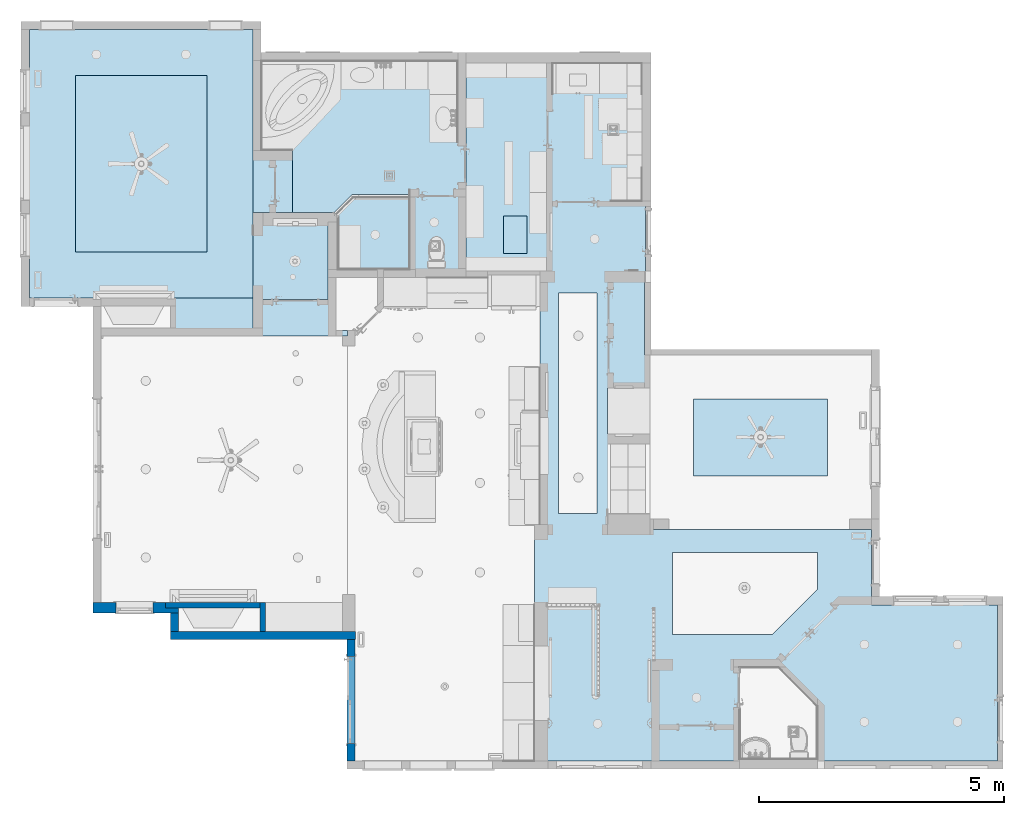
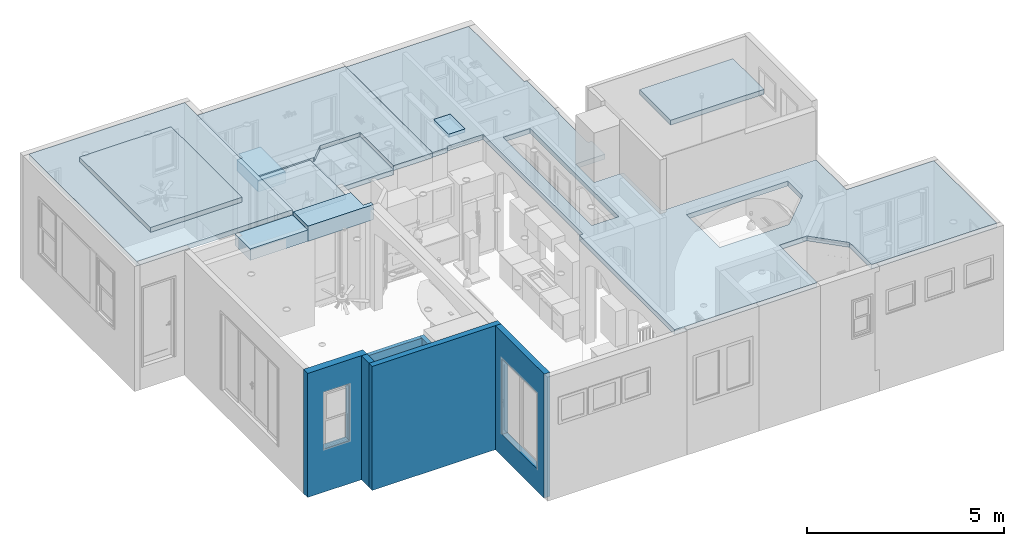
# One storey, part 5 of 77: 11 slabs, 6 walls.
"""IFC2X3 building model written with IfcOpenShell, lengths in inches."""

from ifc_helpers import new_model, entity, si_unit, converted_unit, derived_unit, money_unit, direction, frame, origin_with_axes, place, context, subcontext, project, spatial, faceted_brep, material, type_object, element, save


model = new_model("IFC2X3")

# Units and contexts
model_context = context("Model", 3, precision=0.000393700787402, world=origin_with_axes(), true_north=direction((0.0, 1.0)))
body_context = subcontext(model_context, "Body", "Model", "MODEL_VIEW")
ifc_project = project(units=[converted_unit("LENGTHUNIT", "INCH", entity("IfcPositiveLengthMeasure", 0.0254), si_unit("LENGTHUNIT", "METRE"), dimensions=[1, 0, 0, 0, 0, 0, 0]), converted_unit("AREAUNIT", "SQUARE_FOOT", entity("IfcPositiveLengthMeasure", 0.09290304), si_unit("AREAUNIT", "SQUARE_METRE"), dimensions=[2, 0, 0, 0, 0, 0, 0]), si_unit("PLANEANGLEUNIT", "RADIAN"), si_unit("SOLIDANGLEUNIT", "STERADIAN"), money_unit("USD"), converted_unit("TIMEUNIT", "Year", entity("IfcTimeMeasure", 31556926.0), si_unit("TIMEUNIT", "SECOND"), dimensions=[0, 0, 1, 0, 0, 0, 0]), si_unit("MASSUNIT", "GRAM", prefix="KILO"), si_unit("THERMODYNAMICTEMPERATUREUNIT", "DEGREE_CELSIUS"), si_unit("LUMINOUSINTENSITYUNIT", "LUMEN"), si_unit("ENERGYUNIT", "JOULE", prefix="MEGA"), derived_unit("THERMALCONDUCTANCEUNIT", [(si_unit("POWERUNIT", "WATT"), 1), (si_unit("LENGTHUNIT", "METRE"), -1), (si_unit("THERMODYNAMICTEMPERATUREUNIT", "KELVIN"), -1)]), derived_unit("SPECIFICHEATCAPACITYUNIT", [(si_unit("ENERGYUNIT", "JOULE"), 1), (si_unit("MASSUNIT", "GRAM", prefix="KILO"), -1), (si_unit("THERMODYNAMICTEMPERATUREUNIT", "KELVIN"), -1)]), derived_unit("MASSDENSITYUNIT", [(si_unit("MASSUNIT", "GRAM", prefix="KILO"), 1), (si_unit("VOLUMEUNIT", "CUBIC_METRE"), -1)])], contexts=[model_context])

# Site, building, storey
site_placement = place(None, origin_with_axes())
site = spatial("IfcSite", under=ifc_project, at=site_placement, Name="Site", CompositionType="ELEMENT")
building_placement = place(site_placement, origin_with_axes())
building = spatial("IfcBuilding", under=site, at=building_placement, Name="Building", CompositionType="ELEMENT")
storey_placement = place(building_placement, frame((0.0, 0.0, 127.952755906), z_axis=(0.0, 0.0, 1.0), x_axis=(1.0, 0.0, 0.0)))
storey = spatial("IfcBuildingStorey", under=building, at=storey_placement, Name="Second Floor", CompositionType="ELEMENT", Elevation=127.953)

# Slabs
ifc_material = material(Name="Generic - Structural")
slab_type_1 = type_object("IfcSlabType", Name="Generic - Structural 150", PredefinedType="FLOOR")
slab_1_placement = place(storey_placement, frame((263.739635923, 607.989865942, 120.094488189), z_axis=(0.0, 0.0, 1.0), x_axis=(1.0, 0.0, 0.0)))
element("IfcSlab", 1, at=slab_1_placement, inside=storey, type_object=slab_type_1, material=ifc_material, Name="SLA - 002", PredefinedType="FLOOR", context=body_context, shape_type="Brep", body=[
    faceted_brep([(-37.1016937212, 0.0, 5.90551181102), (-37.1016937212, 0.0, 0.0), (-37.1016937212, -216.149622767, 0.0), (-37.1016937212, -216.149622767, 5.90551181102), (143.000007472, 0.0, 5.90551181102), (143.000007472, 0.0, 0.0), (143.000007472, -216.082692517, 0.0), (-37.0878797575, -216.149622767, 0.0), (105.960635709, -37.0039518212, 0.0), (0.0393758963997, -37.0039518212, 0.0), (0.0393758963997, -179.161435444, 0.0), (105.960635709, -179.161435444, 0.0), (-37.0878797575, -216.149622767, 5.90551181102), (143.000007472, -216.082692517, 5.90551181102), (0.0393758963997, -179.161435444, 5.90551181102), (0.0393758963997, -37.0039518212, 5.90551181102), (105.960635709, -37.0039518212, 5.90551181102), (105.960635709, -179.161435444, 5.90551181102)], [[[0, 1, 2, 3]], [[4, 5, 1, 0]], [[1, 5, 6, 7, 2], [8, 9, 10, 11]], [[3, 2, 7, 12]], [[4, 0, 3, 12, 13], [14, 15, 16, 17]], [[13, 6, 5, 4]], [[12, 7, 6, 13]], [[15, 9, 8, 16]], [[14, 10, 9, 15]], [[17, 11, 10, 14]], [[16, 8, 11, 17]]]),
])
slab_2_placement = place(storey_placement, frame((406.739645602, 502.905939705, 119.68503937), z_axis=(0.0, 0.0, 1.0), x_axis=(1.0, 0.0, 0.0)))
element("IfcSlab", 2, at=slab_2_placement, inside=storey, type_object=slab_type_1, material=ifc_material, Name="SLA - 004", PredefinedType="FLOOR", context=body_context, shape_type="Brep", body=[
    faceted_brep([(-2.20669145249e-06, -42.0751163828, 5.90551181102), (-2.20669145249e-06, -42.0751163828, 0.0), (63.9999975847, -42.0751163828, 0.0), (63.9999975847, -42.0751163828, 5.90551181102), (2.60025995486e-06, 80.001232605, 5.90551181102), (2.60025995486e-06, 80.001232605, 0.0), (171.250003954, 80.001232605, 0.0), (171.250001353, -94.499091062, 0.0), (126.250001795, -94.499091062, 0.0), (126.250001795, -27.4687506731, 0.0), (79.750021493, -27.4687506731, 0.0), (64.6278042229, -42.59073652, 0.0), (64.6278042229, -42.59073652, 5.90551181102), (79.750021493, -27.4687506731, 5.90551181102), (126.250001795, -27.4687506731, 5.90551181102), (126.250001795, -94.499091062, 5.90551181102), (171.250001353, -94.499091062, 5.90551181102), (171.250003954, 80.001232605, 5.90551181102)], [[[0, 1, 2, 3]], [[4, 5, 1, 0]], [[1, 5, 6, 7, 8, 9, 10, 11, 2]], [[3, 2, 11, 12]], [[4, 0, 3, 12, 13, 14, 15, 16, 17]], [[17, 6, 5, 4]], [[16, 7, 6, 17]], [[15, 8, 7, 16]], [[14, 9, 8, 15]], [[13, 10, 9, 14]], [[12, 11, 10, 13]]]),
])
slab_3_placement = place(storey_placement, frame((466.989645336, 408.408081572, 114.75), z_axis=(0.0, 0.0, 1.0), x_axis=(1.0, 0.0, 0.0)))
element("IfcSlab", 3, at=slab_3_placement, inside=storey, type_object=slab_type_1, material=ifc_material, Name="SLA - 005", PredefinedType="FLOOR", context=body_context, shape_type="Brep", body=[
    faceted_brep([(0.0, 0.0, 5.90551181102), (0.0, 0.0, 0.0), (65.9999974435, -2.23436317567e-09, 0.0), (65.9999974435, -2.23436317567e-09, 5.90551181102), (-9.09998235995e-10, 52.4227417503, 5.90551181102), (-9.09998235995e-10, 52.4227417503, 0.0), (3.74999785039, 52.4227417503, 0.0), (4.37779945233, 51.90835308, 0.0), (19.4999968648, 67.030340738, 0.0), (65.9999974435, 67.030340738, 0.0), (65.9999974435, 67.030340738, 5.90551181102), (19.4999968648, 67.030340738, 5.90551181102), (4.37779945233, 51.90835308, 5.90551181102), (3.74999785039, 52.4227417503, 5.90551181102)], [[[0, 1, 2, 3]], [[4, 5, 1, 0]], [[1, 5, 6, 7, 8, 9, 2]], [[3, 2, 9, 10]], [[4, 0, 3, 10, 11, 12, 13]], [[13, 6, 5, 4]], [[12, 7, 6, 13]], [[11, 8, 7, 12]], [[10, 9, 8, 11]]]),
])
slab_4_placement = place(storey_placement, frame((719.519431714, 581.014426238, 120.094488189), z_axis=(0.0, 0.0, 1.0), x_axis=(1.0, 0.0, 0.0)))
element("IfcSlab", 4, at=slab_4_placement, inside=storey, type_object=slab_type_1, material=ifc_material, Name="SLA - 006", PredefinedType="FLOOR", context=body_context, shape_type="Brep", body=[
    faceted_brep([(0.0, 0.0, 5.90551181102), (0.0, 0.0, 0.0), (-141.531112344, -1.67169095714e-07, 0.0), (-141.531112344, -1.67169095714e-07, 5.90551181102), (1.31114716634e-07, -111.006113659, 5.90551181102), (1.31114716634e-07, -111.006113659, 0.0), (2.97021147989, -111.006113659, 0.0), (2.97021147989, -176.55919497, 0.0), (1.98031492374, -176.559194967, 0.0), (1.98031344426, -235.042506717, 0.0), (6.50787199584, -235.042673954, 0.0), (6.50647230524, -261.607612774, 0.0), (-27.5297822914, -261.607257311, 0.0), (-27.5297822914, -298.604410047, 0.0), (6.4702154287, -298.604410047, 0.0), (6.47021168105, -375.398552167, 0.0), (184.700700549, -375.405651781, 0.0), (184.713171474, -435.85720178, 0.0), (286.070839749, -435.836292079, 0.0), (286.070839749, -561.607253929, 0.0), (141.38898822, -561.607253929, 0.0), (141.38898822, -517.35123032, 0.0), (110.047947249, -486.022383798, 0.0), (78.3989063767, -486.021370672, 0.0), (78.3964867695, -561.607253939, 0.0), (-86.5297867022, -561.607253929, 0.0), (-86.5534103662, -433.607253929, 0.0), (-86.5297783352, -371.107254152, 0.0), (-82.0297911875, -371.107254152, 0.0), (-82.0432014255, -241.58899752, 0.0), (-82.0397321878, -199.8567142, 0.0), (-82.0297911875, -170.606344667, 0.0), (-124.029788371, -170.606344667, 0.0), (-124.029788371, -172.606342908, 0.0), (-141.529741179, -172.606342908, 0.0), (-92.5297862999, -123.106340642, 0.0), (-111.529785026, -123.106340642, 0.0), (-111.529785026, -153.10634442, 0.0), (-92.5297862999, -153.10634442, 0.0), (-36.0297865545, -185.106344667, 0.0), (-67.0297865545, -185.106344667, 0.0), (-67.0297865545, -362.607253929, 0.0), (-36.0297865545, -362.607253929, 0.0), (24.4702142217, -459.607253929, 0.0), (104.97594049, -459.607253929, 0.0), (141.47021774, -423.112976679, 0.0), (141.470214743, -393.607253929, 0.0), (24.4702142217, -393.607253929, 0.0), (-141.529741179, -172.606342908, 5.90551181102), (-124.029788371, -172.606342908, 5.90551181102), (-124.029788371, -170.606344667, 5.90551181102), (-82.0297911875, -170.606344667, 5.90551181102), (-82.0397321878, -199.8567142, 5.90551181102), (-82.0432014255, -241.58899752, 5.90551181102), (-82.0297911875, -371.107254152, 5.90551181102), (-86.5297783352, -371.107254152, 5.90551181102), (-86.5534103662, -433.607253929, 5.90551181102), (-86.5297867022, -561.607253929, 5.90551181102), (78.3964867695, -561.607253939, 5.90551181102), (78.3989063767, -486.021370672, 5.90551181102), (110.047947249, -486.022383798, 5.90551181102), (141.38898822, -517.35123032, 5.90551181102), (141.38898822, -561.607253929, 5.90551181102), (286.070839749, -561.607253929, 5.90551181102), (286.070839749, -435.836292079, 5.90551181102), (184.713171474, -435.85720178, 5.90551181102), (184.700700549, -375.405651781, 5.90551181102), (6.47021168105, -375.398552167, 5.90551181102), (6.4702154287, -298.604410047, 5.90551181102), (-27.5297822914, -298.604410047, 5.90551181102), (-27.5297822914, -261.607257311, 5.90551181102), (6.50647230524, -261.607612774, 5.90551181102), (6.50787199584, -235.042673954, 5.90551181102), (1.98031344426, -235.042506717, 5.90551181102), (1.98031492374, -176.559194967, 5.90551181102), (2.97021147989, -176.55919497, 5.90551181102), (2.97021147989, -111.006113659, 5.90551181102), (-111.529785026, -153.10634442, 5.90551181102), (-111.529785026, -123.106340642, 5.90551181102), (-92.5297862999, -123.106340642, 5.90551181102), (-92.5297862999, -153.10634442, 5.90551181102), (-67.0297865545, -362.607253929, 5.90551181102), (-67.0297865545, -185.106344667, 5.90551181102), (-36.0297865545, -185.106344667, 5.90551181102), (-36.0297865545, -362.607253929, 5.90551181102), (141.47021774, -423.112976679, 5.90551181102), (104.97594049, -459.607253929, 5.90551181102), (24.4702142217, -459.607253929, 5.90551181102), (24.4702142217, -393.607253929, 5.90551181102), (141.470214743, -393.607253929, 5.90551181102)], [[[0, 1, 2, 3]], [[4, 5, 1, 0]], [[2, 1, 5, 6, 7, 8, 9, 10, 11, 12, 13, 14, 15, 16, 17, 18, 19, 20, 21, 22, 23, 24, 25, 26, 27, 28, 29, 30, 31, 32, 33, 34], [35, 36, 37, 38], [39, 40, 41, 42], [43, 44, 45, 46, 47]], [[3, 2, 34, 48]], [[4, 0, 3, 48, 49, 50, 51, 52, 53, 54, 55, 56, 57, 58, 59, 60, 61, 62, 63, 64, 65, 66, 67, 68, 69, 70, 71, 72, 73, 74, 75, 76], [77, 78, 79, 80], [81, 82, 83, 84], [85, 86, 87, 88, 89]], [[76, 6, 5, 4]], [[75, 7, 6, 76]], [[74, 8, 7, 75]], [[73, 9, 8, 74]], [[72, 10, 9, 73]], [[71, 11, 10, 72]], [[70, 12, 11, 71]], [[69, 13, 12, 70]], [[68, 14, 13, 69]], [[67, 15, 14, 68]], [[66, 16, 15, 67]], [[65, 17, 16, 66]], [[64, 18, 17, 65]], [[63, 19, 18, 64]], [[62, 20, 19, 63]], [[61, 21, 20, 62]], [[60, 22, 21, 61]], [[59, 23, 22, 60]], [[58, 24, 23, 59]], [[57, 25, 24, 58]], [[56, 26, 25, 57]], [[55, 27, 26, 56]], [[54, 28, 27, 55]], [[53, 29, 28, 54]], [[52, 30, 29, 53]], [[51, 31, 30, 52]], [[50, 32, 31, 51]], [[49, 33, 32, 50]], [[48, 34, 33, 49]], [[78, 36, 35, 79]], [[77, 37, 36, 78]], [[80, 38, 37, 77]], [[79, 35, 38, 80]], [[82, 40, 39, 83]], [[81, 41, 40, 82]], [[84, 42, 41, 81]], [[83, 39, 42, 84]], [[86, 44, 43, 87]], [[85, 45, 44, 86]], [[89, 46, 45, 85]], [[88, 47, 46, 89]], [[87, 43, 47, 88]]]),
])
slab_5_placement = place(storey_placement, frame((406.739643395, 390.81192265, 118.11023622), z_axis=(0.0, 0.0, 1.0), x_axis=(1.0, 0.0, 0.0)))
element("IfcSlab", 5, at=slab_5_placement, inside=storey, type_object=slab_type_1, material=ifc_material, Name="SLA - 012", PredefinedType="FLOOR", context=body_context, shape_type="Brep", body=[
    faceted_brep([(0.0, 0.0, 5.90551181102), (0.0, 0.0, 0.0), (8.07086614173, 0.0, 0.0), (8.07086614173, 0.0, 5.90551181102), (0.0, 70.0189006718, 5.90551181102), (0.0, 70.0189006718, 0.0), (60.2500019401, 70.0189006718, 0.0), (60.25, -0.00180005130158, 0.0), (60.25, -0.00180005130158, 5.90551181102), (60.2500019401, 70.0189006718, 5.90551181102)], [[[0, 1, 2, 3]], [[4, 5, 1, 0]], [[2, 1, 5, 6, 7]], [[3, 2, 7, 8]], [[4, 0, 3, 8, 9]], [[9, 6, 5, 4]], [[8, 7, 6, 9]]]),
])
slab_6_placement = place(storey_placement, frame((263.77901182, 428.828430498, 126.0), z_axis=(0.0, 0.0, 1.0), x_axis=(1.0, 0.0, 0.0)))
element("IfcSlab", 6, at=slab_6_placement, inside=storey, type_object=slab_type_1, material=ifc_material, Name="SLA - 016", PredefinedType="FLOOR", context=body_context, shape_type="Brep", body=[
    faceted_brep([(0.0, 0.0, 5.90551181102), (0.0, 0.0, 0.0), (105.921259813, 0.0, 0.0), (105.921259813, 0.0, 5.90551181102), (0.0, 142.157483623, 5.90551181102), (0.0, 142.157483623, 0.0), (105.921259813, 142.157483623, 0.0), (105.921259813, 142.157483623, 5.90551181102)], [[[0, 1, 2, 3]], [[4, 5, 1, 0]], [[2, 1, 5, 6]], [[3, 2, 6, 7]], [[4, 0, 3, 7]], [[7, 6, 5, 4]]]),
])
slab_7_placement = place(storey_placement, frame((760.989643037, 248.907171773, 198.031496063), z_axis=(0.0, 0.0, 1.0), x_axis=(1.0, 0.0, 0.0)))
element("IfcSlab", 7, at=slab_7_placement, inside=storey, type_object=slab_type_1, material=ifc_material, Name="SLA - 017", PredefinedType="FLOOR", context=body_context, shape_type="Brep", body=[
    faceted_brep([(0.0, 0.0, 0.0), (0.0, 0.0, -5.90551181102), (108.000000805, 0.0, -5.90551181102), (108.000000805, 0.0, 0.0), (0.0, 62.0000000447, 0.0), (0.0, 62.0000000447, -5.90551181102), (108.000000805, 62.0000000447, -5.90551181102), (108.000000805, 62.0000000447, 0.0)], [[[0, 1, 2, 3]], [[4, 5, 1, 0]], [[2, 1, 5, 6]], [[3, 2, 6, 7]], [[4, 0, 3, 7]], [[7, 6, 5, 4]]]),
])
slab_type_2 = type_object("IfcSlabType", Name="Generic - Structural 100", PredefinedType="FLOOR")
slab_8_placement = place(storey_placement, frame((607.989647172, 427.908081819, 122.047244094), z_axis=(0.0, 0.0, 1.0), x_axis=(1.0, 0.0, 0.0)))
element("IfcSlab", 8, at=slab_8_placement, inside=storey, type_object=slab_type_2, material=ifc_material, Name="SLA - 019", PredefinedType="FLOOR", context=body_context, shape_type="Brep", body=[
    faceted_brep([(0.0, 0.0, 3.93700787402), (0.0, 0.0, 0.0), (18.999996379, 0.0, 0.0), (18.999996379, 0.0, 3.93700787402), (0.0, 30.0000037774, 3.93700787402), (0.0, 30.0000037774, 0.0), (18.999996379, 30.0000037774, 0.0), (18.999996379, 30.0000037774, 3.93700787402)], [[[0, 1, 2, 3]], [[4, 5, 1, 0]], [[2, 1, 5, 6]], [[3, 2, 6, 7]], [[4, 0, 3, 7]], [[7, 6, 5, 4]]]),
])
slab_type_3 = type_object("IfcSlabType", Name="Generic - Structural 355", PredefinedType="FLOOR")
slab_9_placement = place(storey_placement, frame((406.739643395, 502.90717231, 105.905511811), z_axis=(0.0, 0.0, 1.0), x_axis=(1.0, 0.0, 0.0)))
element("IfcSlab", 9, at=slab_9_placement, inside=storey, type_object=slab_type_3, material=ifc_material, Name="SLA - 003", PredefinedType="FLOOR", context=body_context, shape_type="Brep", body=[
    faceted_brep([(0.0, 0.0, 13.9763779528), (0.0, 0.0, 0.0), (0.0, -42.0763489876, 0.0), (0.0, -42.0763489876, 13.9763779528), (6.5, -1.99286958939e-05, 13.9763779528), (6.5, -1.99286958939e-05, 0.0), (6.5, 8.0, 0.0), (31.5, 8.0, 0.0), (31.5000005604, -42.0763489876, 0.0), (31.5000005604, -42.0763489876, 13.9763779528), (31.5, 8.0, 13.9763779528), (6.5, 8.0, 13.9763779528)], [[[0, 1, 2, 3]], [[4, 5, 1, 0]], [[2, 1, 5, 6, 7, 8]], [[3, 2, 8, 9]], [[4, 0, 3, 9, 10, 11]], [[11, 6, 5, 4]], [[10, 7, 6, 11]], [[9, 8, 7, 10]]]),
])
slab_10_placement = place(storey_placement, frame((340.239643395, 361.407251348, 105.905511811), z_axis=(0.0, 0.0, 1.0), x_axis=(1.0, 0.0, 0.0)))
element("IfcSlab", 10, at=slab_10_placement, inside=storey, type_object=slab_type_3, material=ifc_material, Name="SLA - 013", PredefinedType="FLOOR", context=body_context, shape_type="Brep", body=[
    faceted_brep([(0.0, 0.0, 13.9763779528), (0.0, 0.0, 0.0), (66.5000015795, 0.0, 0.0), (66.5000015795, 0.0, 13.9763779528), (0.0, 30.4752071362, 13.9763779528), (0.0, 30.4752071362, 0.0), (66.5000015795, 30.4999209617, 0.0), (66.5000015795, 30.4999209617, 13.9763779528)], [[[0, 1, 2, 3]], [[4, 5, 1, 0]], [[2, 1, 5, 6]], [[3, 2, 6, 7]], [[4, 0, 3, 7]], [[7, 6, 5, 4]]]),
])
slab_type_4 = type_object("IfcSlabType", Name="Generic - Structural 470", PredefinedType="FLOOR")
slab_11_placement = place(storey_placement, frame((406.73965049, 361.371582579, 105.905511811), z_axis=(0.0, 0.0, 1.0), x_axis=(1.0, 0.0, 0.0)))
element("IfcSlab", 11, at=slab_11_placement, inside=storey, type_object=slab_type_4, material=ifc_material, Name="SLA - 011", PredefinedType="FLOOR", context=body_context, shape_type="Brep", body=[
    faceted_brep([(0.0, 0.0, 18.5), (0.0, 0.0, 0.0), (8.07187175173, 0.0012509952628, 0.0), (8.07187175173, 0.0012509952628, 18.5), (-5.51571932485e-06, 29.46808826, 18.5), (-5.51571932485e-06, 29.46808826, 0.0), (8.07085904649, 29.4403400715, 0.0), (60.2499929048, 29.4385400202, 0.0), (66.7499929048, 29.46808826, 0.0), (66.749994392, 4.53559009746, 0.0), (75.7212570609, 4.53559009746, 0.0), (75.7212627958, 0.00872778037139, 0.0), (60.2546474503, 0.00803067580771, 0.0), (60.2546474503, 0.00803067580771, 18.5), (75.7212627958, 0.00872778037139, 18.5), (75.7212570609, 4.53559009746, 18.5), (66.749994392, 4.53559009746, 18.5), (66.7499929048, 29.46808826, 18.5), (60.2499929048, 29.4385400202, 18.5), (8.07085904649, 29.4403400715, 18.5)], [[[0, 1, 2, 3]], [[4, 5, 1, 0]], [[2, 1, 5, 6, 7, 8, 9, 10, 11, 12]], [[3, 2, 12, 13]], [[4, 0, 3, 13, 14, 15, 16, 17, 18, 19]], [[19, 6, 5, 4]], [[18, 7, 6, 19]], [[17, 8, 7, 18]], [[16, 9, 8, 17]], [[15, 10, 9, 16]], [[14, 11, 10, 15]], [[13, 12, 11, 14]]]),
])

# Walls
wall_type_1 = type_object("IfcWallType", Name="Generic - Structural 115", PredefinedType="NOTDEFINED")
wall_1_placement = place(storey_placement, frame((416.811205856, 147.162847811, 0.0), z_axis=(0.0, 0.0, 1.0), x_axis=(-0.999999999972, -7.48720902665e-06, 0.0)))
element("IfcWall", 12, at=wall_1_placement, inside=storey, type_object=wall_type_1, material=ifc_material, Name="SW - 110", context=body_context, shape_type="Brep", body=[
    faceted_brep([(80.6941613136, 0.0, 0.0157480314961), (80.6941613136, 0.0, 120.078740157), (70.3215629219, -0.000126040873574, 120.078740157), (70.3215629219, -0.000126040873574, 118.503937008), (4.52755905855, 0.0, 118.503937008), (4.52755905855, 0.0, 0.0157480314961), (17.4204225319, 0.0, 9.84251968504), (17.4204225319, 0.0, 41.9291338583), (66.042469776, 0.0, 41.9291338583), (66.042469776, 0.0, 9.84251968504), (11.5443584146, -0.000126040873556, 55.5401909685), (10.5906627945, -0.000126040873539, 55.9378369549), (9.56690469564, -0.000126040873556, 56.0777548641), (9.56690469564, -0.000126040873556, 57.0866141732), (12.0130538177, -0.000126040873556, 57.0866141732), (15.4724310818, -0.000126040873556, 52.3588053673), (15.4724310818, -0.000126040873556, 49.0157397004), (14.7342402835, -0.000126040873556, 49.0157397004), (14.6367121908, -0.000126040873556, 50.3814274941), (14.3409002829, -0.000126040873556, 51.7182559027), (13.8772662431, -0.000126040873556, 52.9109452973), (13.2207627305, -0.000126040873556, 54.0093385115), (12.4639024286, -0.000126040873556, 54.8638404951), (69.7960820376, -0.000126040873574, 50.3814274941), (69.6985539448, -0.000126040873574, 49.0157397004), (68.9603631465, -0.000126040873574, 49.0157397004), (68.9603631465, -0.000126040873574, 52.3588053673), (72.4197404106, -0.000126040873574, 57.0866141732), (74.8658895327, -0.000126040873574, 57.0866141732), (74.8658895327, -0.000126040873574, 56.0777548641), (73.8421314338, -0.000126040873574, 55.9378369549), (72.8884358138, -0.000126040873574, 55.5401909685), (71.9688917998, -0.000126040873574, 54.8638404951), (71.2120314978, -0.000126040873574, 54.0093385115), (70.5555279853, -0.000126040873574, 52.9109452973), (70.0918939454, -0.000126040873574, 51.7182559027), (80.6941613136, 3.75461497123, 0.0157480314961), (80.6941613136, 3.75460458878, 0.0), (80.6941613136, 4.52755905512, 0.0), (80.6941613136, 4.52755905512, 120.078740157), (70.3088157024, 4.52755905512, 120.078740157), (70.3088157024, 4.52755905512, 118.503937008), (4.52773540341, 4.52755905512, 118.503937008), (4.52773540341, 4.52755905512, 0.0157480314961), (66.3635338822, 3.75472226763, 0.0157480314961), (66.3635396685, 4.52755905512, 0.0157480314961), (17.4204225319, 4.52755905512, 9.84251968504), (17.4204225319, 4.52755905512, 41.9291338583), (66.042469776, 4.52755905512, 41.9291338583), (66.042469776, 4.52755905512, 9.84251968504), (10.5906644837, 0.225477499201, 55.9378369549), (11.5443601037, 0.225470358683, 55.5401909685), (9.56690638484, 0.225485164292, 56.0777548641), (9.56690638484, 0.225485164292, 57.0866141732), (12.0130555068, 0.225466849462, 57.0866141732), (15.4724327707, 0.225440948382, 52.3588053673), (15.4724327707, 0.225440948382, 49.0157397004), (14.7342419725, 0.225446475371, 49.0157397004), (14.6367138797, 0.225447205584, 50.3814274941), (14.3409019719, 0.225449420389, 51.7182559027), (13.877267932, 0.225452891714, 52.9109452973), (13.2207644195, 0.225457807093, 54.0093385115), (12.4639041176, 0.225463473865, 54.8638404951), (69.6985566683, 0.361403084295, 49.0157397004), (69.7960847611, 0.361402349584, 50.3814274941), (68.9603658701, 0.36140864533, 49.0157397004), (68.9603658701, 0.36140864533, 52.3588053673), (72.419743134, 0.361382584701, 57.0866141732), (74.8658922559, 0.361364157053, 57.0866141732), (74.8658922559, 0.361364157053, 56.0777548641), (73.8421341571, 0.36137186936, 55.9378369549), (72.8884385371, 0.361379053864, 55.5401909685), (71.9688945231, 0.361385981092, 54.8638404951), (71.2120342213, 0.36139168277, 54.0093385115), (70.5555307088, 0.361396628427, 52.9109452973), (70.0918966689, 0.361400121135, 51.7182559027), (66.3635338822, 3.75472226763, 0.0), (66.3635396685, 4.52755905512, 0.0)], [[[0, 1, 2, 3, 4, 5], [6, 7, 8, 9], [10, 11, 12, 13, 14, 15, 16, 17, 18, 19, 20, 21, 22], [23, 24, 25, 26, 27, 28, 29, 30, 31, 32, 33, 34, 35]], [[1, 0, 36, 37, 38, 39]], [[1, 39, 40, 2]], [[41, 3, 2, 40]], [[3, 41, 42, 4]], [[43, 5, 4, 42]], [[44, 36, 0, 5, 43, 45]], [[6, 46, 47, 7]], [[7, 47, 48, 8]], [[8, 48, 49, 9]], [[9, 49, 46, 6]], [[50, 11, 10, 51]], [[52, 12, 11, 50]], [[53, 13, 12, 52]], [[54, 14, 13, 53]], [[55, 15, 14, 54]], [[56, 16, 15, 55]], [[57, 17, 16, 56]], [[58, 18, 17, 57]], [[59, 19, 18, 58]], [[60, 20, 19, 59]], [[61, 21, 20, 60]], [[62, 22, 21, 61]], [[51, 10, 22, 62]], [[63, 24, 23, 64]], [[65, 25, 24, 63]], [[66, 26, 25, 65]], [[67, 27, 26, 66]], [[68, 28, 27, 67]], [[69, 29, 28, 68]], [[70, 30, 29, 69]], [[71, 31, 30, 70]], [[72, 32, 31, 71]], [[73, 33, 32, 72]], [[74, 34, 33, 73]], [[75, 35, 34, 74]], [[64, 23, 35, 75]], [[36, 44, 76, 37]], [[38, 37, 76, 77]], [[43, 42, 41, 40, 39, 38, 77, 45], [48, 47, 46, 49]], [[44, 45, 77, 76]], [[53, 52, 50, 51, 62, 61, 60, 59, 58, 57, 56, 55, 54]], [[70, 69, 68, 67, 66, 65, 63, 64, 75, 74, 73, 72, 71]]]),
])
wall_2_placement = place(storey_placement, frame((416.810462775, 123.544487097, 0.0), z_axis=(0.0, 0.0, 1.0), x_axis=(3.14620028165e-05, 0.999999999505, 0.0)))
element("IfcWall", 13, at=wall_2_placement, inside=storey, type_object=wall_type_1, material=ifc_material, Name="SW - 110", context=body_context, shape_type="Brep", body=[
    faceted_brep([(23.6181843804, 4.52755905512, 0.0157480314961), (23.6181843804, 4.52755905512, 118.503937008), (23.6183607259, -1.78186296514e-05, 118.503937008), (23.6183607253, 0.0, 0.0157480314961), (0.00239275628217, 4.52755905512, 120.078740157), (0.00239275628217, 4.52755905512, 118.503937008), (-0.000134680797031, 4.52755905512, 0.0157480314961), (-0.000134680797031, 4.52755905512, 120.078740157), (0.00271018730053, -1.78186296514e-05, 118.503937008), (0.00271018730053, -1.78186296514e-05, 120.078740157), (8.83490808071e-06, 0.0, 120.078740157), (8.83490808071e-06, 0.0, 0.0157480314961)], [[[0, 1, 2, 3]], [[4, 5, 1, 0, 6, 7]], [[5, 8, 2, 1]], [[2, 8, 9, 10, 11, 3]], [[6, 0, 3, 11]], [[5, 4, 9, 8]], [[7, 6, 11, 10]], [[10, 9, 4, 7]]]),
])
wall_type_2 = type_object("IfcWallType", Name="Generic - Structural 215", PredefinedType="NOTDEFINED")
wall_3_placement = place(storey_placement, frame((346.554052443, 147.162321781, -26.968503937), z_axis=(0.0, 0.0, 1.0), x_axis=(-0.999999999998, 1.84812908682e-06, 0.0)))
element("IfcWall", 14, at=wall_3_placement, inside=storey, type_object=wall_type_2, material=ifc_material, Name="SW - 111", context=body_context, shape_type="Brep", body=[
    faceted_brep([(68.7213783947, 8.46456692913, 151.57480315), (68.7213783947, 8.46456692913, 0.0), (-0.000826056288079, 8.46456692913, 0.0), (-0.000826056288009, 8.46456692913, 145.472440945), (0.0404990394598, 8.46456692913, 145.472440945), (0.0404990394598, 8.46456692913, 151.377952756), (-0.000826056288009, 8.46456692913, 151.377952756), (-0.000826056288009, 8.46456692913, 151.57480315), (50.1424785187, 8.46456692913, 52.3669509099), (50.1424785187, 8.46456692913, 122.05199028), (20.2212186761, 8.46456692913, 122.05199028), (20.2212186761, 8.46456692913, 52.3669509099), (68.7213633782, 0.0, 151.57480315), (68.7213633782, 0.0, 0.0), (0.0, 0.0, 0.0), (0.0, 0.0, 0.015748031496), (-0.000366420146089, 3.75469311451, 0.015748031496), (-0.000366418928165, 3.75468063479, 26.968503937), (-0.000441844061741, 4.52755905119, 26.968503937), (-0.000441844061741, 4.52755905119, 145.472440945), (0.0516200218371, 4.52755953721, 145.472440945), (0.0516200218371, 4.52755953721, 147.047244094), (0.0644095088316, -0.00012543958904, 147.047244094), (0.0644095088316, -0.00012543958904, 151.377952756), (0.0, 0.0, 151.377952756), (0.0, 0.0, 151.57480315), (50.1424785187, 0.0, 52.3669509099), (50.1424785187, 0.0, 122.05199028), (20.2212186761, 0.0, 122.05199028), (20.2212186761, 0.0, 52.3669509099), (10.4370078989, 9.7432997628e-05, 147.047244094), (10.4370078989, 9.7432997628e-05, 26.9842519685), (62.1063455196, 9.74329976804e-05, 26.9842519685), (62.1063455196, 9.74329976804e-05, 0.015748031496), (62.1063385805, 3.75480789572, 0.015748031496), (62.1063385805, 3.75480789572, 26.9842519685), (10.4369728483, 3.75471240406, 26.9842519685), (10.4369728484, 3.75470202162, 26.968503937), (10.4369656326, 4.52765648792, 26.968503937), (10.4369656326, 4.52765648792, 147.047244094)], [[[0, 1, 2, 3, 4, 5, 6, 7], [8, 9, 10, 11]], [[0, 12, 13, 1]], [[2, 1, 13, 14]], [[14, 15, 16, 17, 18, 19, 3, 2]], [[4, 3, 19, 20]], [[4, 20, 21, 22, 23, 5]], [[23, 24, 6, 5]], [[7, 6, 24, 25]], [[25, 12, 0, 7]], [[26, 27, 9, 8]], [[27, 28, 10, 9]], [[28, 29, 11, 10]], [[29, 26, 8, 11]], [[14, 13, 12, 25, 24, 23, 22, 30, 31, 32, 33, 15], [26, 29, 28, 27]], [[34, 16, 15, 33]], [[17, 16, 34, 35, 36, 37]], [[18, 17, 37, 38]], [[20, 19, 18, 38, 39, 21]], [[30, 22, 21, 39]], [[31, 30, 39, 38, 37, 36]], [[35, 32, 31, 36]], [[34, 33, 32, 35]]]),
])
wall_type_3 = type_object("IfcWallType", Name="Generic Wall 6.5\" 165", PredefinedType="NOTDEFINED")
wall_4_placement = place(storey_placement, frame((488.899004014, 123.544512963, -26.968503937), z_axis=(0.0, 0.0, 1.0), x_axis=(-1.0, -2.36248552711e-07, 0.0)))
element("IfcWall", 15, at=wall_4_placement, inside=storey, type_object=wall_type_3, material=ifc_material, Name="SW - 109", context=body_context, shape_type="Brep", body=[
    faceted_brep([(0.0, 6.5, 151.57480315), (0.0, 6.5, 151.377952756), (0.0, 0.0, 151.377952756), (0.0, 0.0, 151.57480315), (6.42867938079, 6.5, 145.472440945), (6.42867938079, 6.5, 151.377952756), (148.8426773, 6.5, 151.57480315), (148.8426773, 6.5, 0.0), (0.0, 6.5, 0.0), (0.0, 6.5, 145.472440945), (6.42945895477, 0.0, 151.377952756), (6.42945895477, 0.0, 145.472440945), (0.0, 0.0, 145.472440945), (0.0, 0.0, 26.9842519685), (138.451303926, 0.0, 26.9842519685), (138.451303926, 0.0, 0.0157480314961), (0.0, 0.0, 0.0157480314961), (0.0, 0.0, 0.0), (148.8426773, 0.0, 0.0), (148.8426773, 0.0, 151.57480315), (0.0, 1.63688409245, 0.0157480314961), (0.0, 1.63688409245, 26.9842519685), (138.451304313, 1.63685138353, 26.9842519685), (138.451304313, 1.63685138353, 0.0157480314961)], [[[0, 1, 2, 3]], [[4, 5, 1, 0, 6, 7, 8, 9]], [[5, 10, 2, 1]], [[10, 11, 12, 13, 14, 15, 16, 17, 18, 19, 3, 2]], [[0, 3, 19, 6]], [[10, 5, 4, 11]], [[19, 18, 7, 6]], [[17, 8, 7, 18]], [[13, 12, 9, 8, 17, 16, 20, 21]], [[4, 9, 12, 11]], [[22, 14, 13, 21]], [[23, 15, 14, 22]], [[23, 20, 16, 15]], [[22, 21, 20, 23]]]),
])
wall_5_placement = place(storey_placement, frame((488.889583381, 19.4071750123, -26.968503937), z_axis=(0.0, 0.0, 1.0), x_axis=(-2.36248553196e-07, 1.0, 0.0)))
element("IfcWall", 16, at=wall_5_placement, inside=storey, type_object=wall_type_3, material=ifc_material, Name="SW - 099", context=body_context, shape_type="Brep", body=[
    faceted_brep([(97.6373379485, 6.5, 151.57480315), (97.6373379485, 6.5, 0.0), (-1.74985047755e-05, 6.5, 0.0), (-1.74985047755e-05, 6.5, 151.57480315), (13.9607089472, 6.5, 26.968503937), (84.0394491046, 6.5, 26.968503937), (84.0394491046, 6.5, 119.291338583), (13.9607089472, 6.5, 119.291338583), (97.6373379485, 0.0, 151.57480315), (97.6373379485, 0.0, 151.377952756), (97.6373379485, 6.41923414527, 151.377952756), (97.6373379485, 6.41923414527, 145.472440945), (97.6373379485, 0.0, 145.472440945), (97.6373379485, 0.0, 0.0), (0.0, 0.0, 0.0), (1.82818719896e-05, 0.0, 145.472440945), (1.82958559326e-05, 0.0377867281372, 145.472440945), (1.82958559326e-05, 0.0377867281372, 151.377952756), (1.82818719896e-05, 0.0, 151.377952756), (0.0, 0.0, 151.57480315), (13.9607089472, 0.0, 26.968503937), (84.0394491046, 0.0, 26.968503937), (84.0394491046, 0.0, 119.291338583), (13.9607089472, 0.0, 119.291338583), (97.5000848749, 0.0378224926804, 151.377952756), (97.49999995, 6.41921767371, 151.377952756), (97.49999995, 6.41921767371, 145.472440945), (97.5000848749, 0.0378224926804, 145.472440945)], [[[0, 1, 2, 3], [4, 5, 6, 7]], [[0, 8, 9, 10, 11, 12, 13, 1]], [[1, 13, 14, 2]], [[2, 14, 15, 16, 17, 18, 19, 3]], [[8, 0, 3, 19]], [[20, 21, 5, 4]], [[21, 22, 6, 5]], [[22, 23, 7, 6]], [[23, 20, 4, 7]], [[9, 8, 19, 18]], [[10, 9, 18, 17, 24, 25]], [[11, 10, 25, 26]], [[26, 27, 16, 15, 12, 11]], [[12, 15, 14, 13], [20, 23, 22, 21]], [[27, 24, 17, 16]], [[24, 27, 26, 25]]]),
])
wall_6_placement = place(storey_placement, frame((346.556313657, 123.544482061, -26.968503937), z_axis=(0.0, 0.0, 1.0), x_axis=(-9.57417784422e-05, 0.999999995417, 0.0)))
element("IfcWall", 17, at=wall_6_placement, inside=storey, type_object=wall_type_3, material=ifc_material, Name="SW - 145", context=body_context, shape_type="Brep", body=[
    faceted_brep([(-2.72602731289e-06, 0.0, 0.0), (0.0, 0.0, 145.472440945), (0.0, 0.0, 151.377952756), (-2.72602731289e-06, 0.0, 151.57480315), (0.000618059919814, 6.5, 151.57480315), (0.000618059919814, 6.5, 0.0), (15.1532728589, 0.0, 0.0), (15.1532728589, 0.0, 145.472440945), (15.1532768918, 0.0413250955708, 145.472440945), (15.1532768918, 0.0413250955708, 151.377952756), (15.1532728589, 0.0, 151.377952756), (15.1532728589, 0.0, 151.57480315), (15.1539071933, 6.5, 151.57480315), (15.1539071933, 6.5, 0.0)], [[[0, 1, 2, 3, 4, 5]], [[6, 7, 1, 0]], [[1, 8, 9, 2]], [[3, 2, 10, 11]], [[4, 3, 11, 12]], [[4, 12, 13, 5]], [[0, 5, 13, 6]], [[9, 8, 7, 6, 13, 12, 11, 10]], [[8, 1, 7]], [[9, 10, 2]]]),
])

save(model, "model.ifc")
